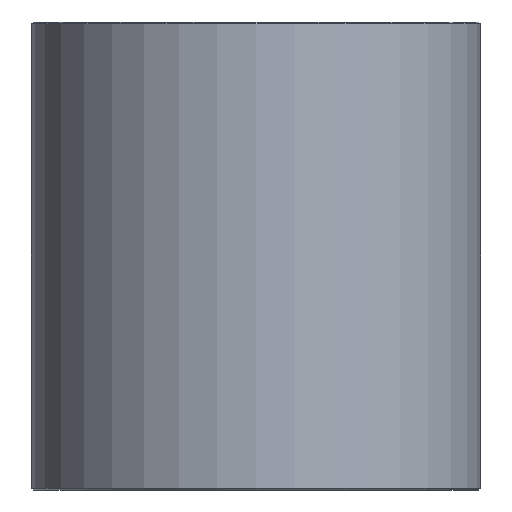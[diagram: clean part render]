
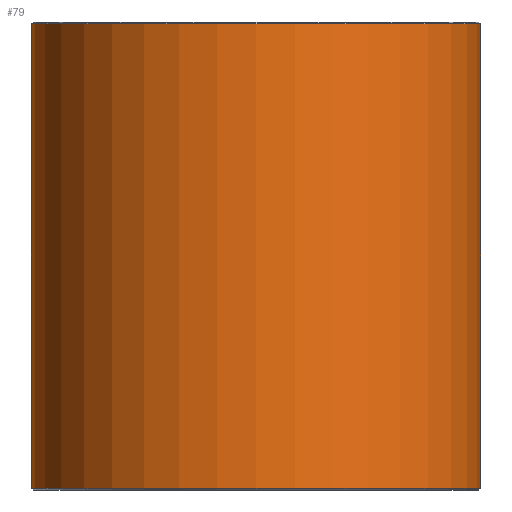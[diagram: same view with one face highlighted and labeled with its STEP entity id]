
A CAD part, front view. The second image highlights one B-rep face of the part: STEP entity #79.
In plain terms, the highlighted cylindrical face has radius 24 mm (diameter 48 mm), a full revolution.
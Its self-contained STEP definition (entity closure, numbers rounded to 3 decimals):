
#79=ADVANCED_FACE('',(#96,#97),#98,.T.);
#96=FACE_OUTER_BOUND('',#120,.T.);
#97=FACE_OUTER_BOUND('',#121,.T.);
#98=CYLINDRICAL_SURFACE('',#122,24.0);
#120=EDGE_LOOP('',(#152));
#121=EDGE_LOOP('',(#153));
#122=AXIS2_PLACEMENT_3D('',#154,#155,#156);
#152=ORIENTED_EDGE('',*,*,#178,.T.);
#153=ORIENTED_EDGE('',*,*,#177,.T.);
#154=CARTESIAN_POINT('',(0.,0.0,50.0));
#155=DIRECTION('',(0.0,0.0,-1.0));
#156=DIRECTION('',(-1.0,0.0,0.0));
#177=EDGE_CURVE('',#190,#190,#191,.T.);
#178=EDGE_CURVE('',#192,#192,#193,.F.);
#190=VERTEX_POINT('',#206);
#191=CIRCLE('',#207,24.0);
#192=VERTEX_POINT('',#208);
#193=CIRCLE('',#209,24.0);
#206=CARTESIAN_POINT('',(24.0,0.0,0.2));
#207=AXIS2_PLACEMENT_3D('',#227,#228,#229);
#208=CARTESIAN_POINT('',(24.0,0.,49.8));
#209=AXIS2_PLACEMENT_3D('',#230,#231,#232);
#227=CARTESIAN_POINT('',(0.,0.0,0.2));
#228=DIRECTION('',(0.0,0.0,1.0));
#229=DIRECTION('',(1.0,0.0,0.0));
#230=CARTESIAN_POINT('',(0.,0.0,49.8));
#231=DIRECTION('',(0.0,0.0,1.0));
#232=DIRECTION('',(1.0,0.0,0.0));
